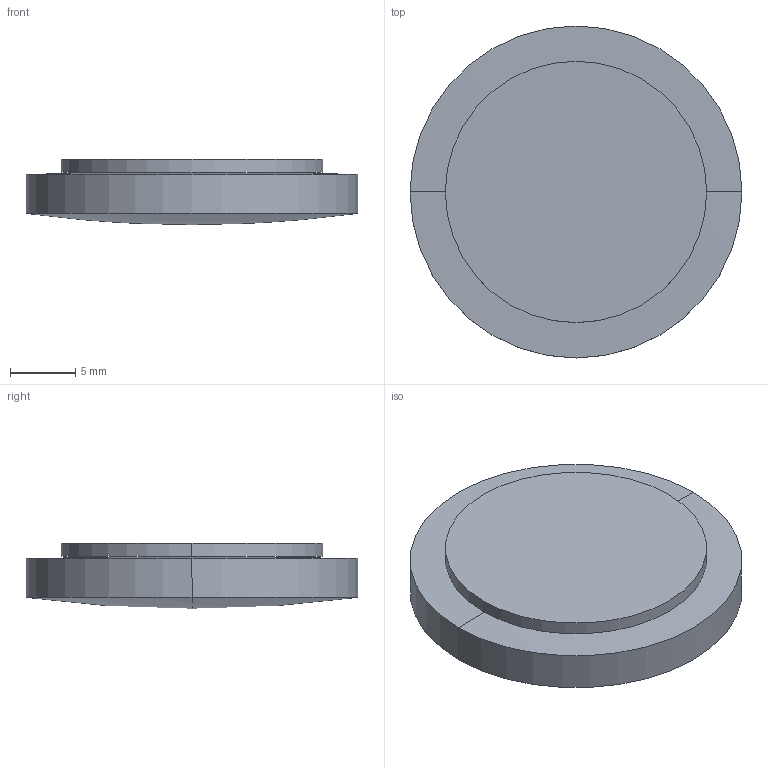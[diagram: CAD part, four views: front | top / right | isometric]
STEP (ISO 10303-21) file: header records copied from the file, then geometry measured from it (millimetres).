
FILE_DESCRIPTION(('STEP AP214'),'1');
FILE_NAME('LLV-25160.STEP','2020-03-09T17:42:21',(' '),(' '),'Spatial InterOp 3D',' ',' ');
FILE_SCHEMA(('AUTOMOTIVE_DESIGN { 1 0 10303 214 1 1 1 1 }'));
Length unit declared in the file: millimetre
Products named in the file (1): 1
Bounding box: 25.4 x 25.4 x 5 mm (x, y, z)
Volume: 2084.9 mm3; surface area: 1945.4 mm2
Topology: 2 solids, 2 shells, 10 faces, 20 edges, 10 vertices
Faces by surface type: sphere 4, cylinder 4, plane 2
Entity records: 255 total; most frequent: DIRECTION 52, CARTESIAN_POINT 38, ORIENTED_EDGE 32, AXIS2_PLACEMENT_3D 24, EDGE_CURVE 16, CIRCLE 12, ADVANCED_FACE 10, FACE_OUTER_BOUND 10
